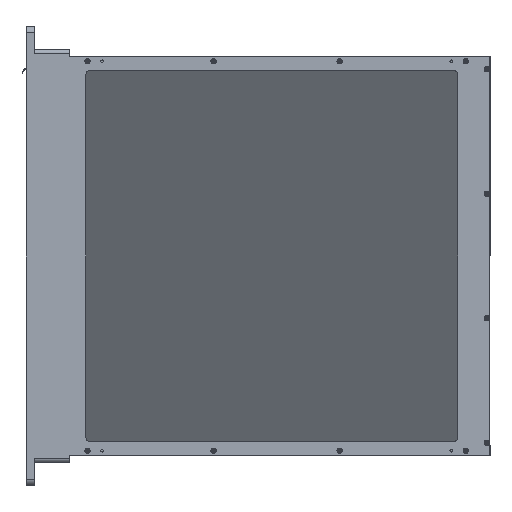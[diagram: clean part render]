
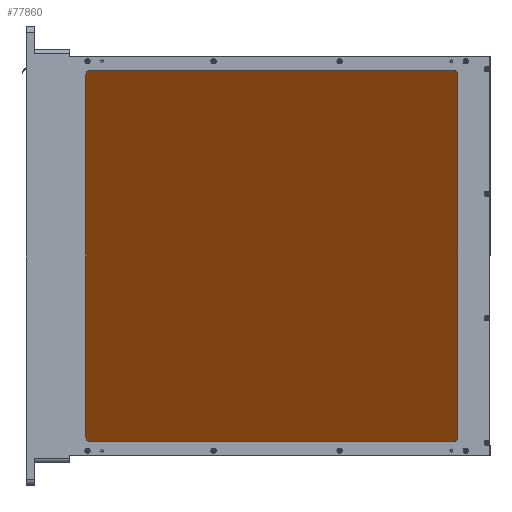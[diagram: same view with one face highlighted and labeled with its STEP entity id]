
A CAD part, left-side view. The second image highlights one B-rep face of the part: STEP entity #77860.
In plain terms, the highlighted planar face has unit normal (-0.707, 0.707, 0).
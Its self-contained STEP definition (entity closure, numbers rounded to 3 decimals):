
#630 = DIRECTION ( 'NONE',  ( 0., 0., 1. ) ) ;
#3436 = EDGE_CURVE ( 'NONE', #30602, #36677, #52478, .T. ) ;
#5288 = CIRCLE ( 'NONE', #68501, 2. ) ;
#5766 = VECTOR ( 'NONE', #630, 1000. ) ;
#6517 = CARTESIAN_POINT ( 'NONE',  ( 123.03, -21.642, 120.5 ) ) ;
#9128 = VECTOR ( 'NONE', #38949, 1000. ) ;
#10996 = DIRECTION ( 'NONE',  ( 0.707, 0.707, 0. ) ) ;
#12879 = CARTESIAN_POINT ( 'NONE',  ( -128.7, -273.372, -118.5 ) ) ;
#14117 = CARTESIAN_POINT ( 'NONE',  ( -130.114, -274.786, 120.5 ) ) ;
#15679 = CARTESIAN_POINT ( 'NONE',  ( -130.114, -274.786, -120.5 ) ) ;
#16178 = EDGE_CURVE ( 'NONE', #30602, #33350, #61137, .T. ) ;
#16868 = VERTEX_POINT ( 'NONE', #44717 ) ;
#18381 = CARTESIAN_POINT ( 'NONE',  ( 121.616, -23.056, 118.5 ) ) ;
#18667 = VERTEX_POINT ( 'NONE', #20954 ) ;
#19069 = DIRECTION ( 'NONE',  ( 0.707, 0.707, 0. ) ) ;
#19636 = EDGE_CURVE ( 'NONE', #18667, #60501, #38627, .T. ) ;
#20954 = CARTESIAN_POINT ( 'NONE',  ( 123.03, -21.642, -118.5 ) ) ;
#21177 = EDGE_CURVE ( 'NONE', #39599, #60501, #76122, .T. ) ;
#23249 = CARTESIAN_POINT ( 'NONE',  ( -130.114, -274.786, -118.5 ) ) ;
#23955 = EDGE_LOOP ( 'NONE', ( #42486, #63214, #32755, #58166, #57463, #78258, #44414, #56187 ) ) ;
#24474 = CARTESIAN_POINT ( 'NONE',  ( -128.7, -273.372, -120.5 ) ) ;
#24658 = DIRECTION ( 'NONE',  ( 0.707, 0.707, 0. ) ) ;
#26291 = VECTOR ( 'NONE', #53396, 1000. ) ;
#27122 = DIRECTION ( 'NONE',  ( -0.707, 0.707, 0. ) ) ;
#28556 = CARTESIAN_POINT ( 'NONE',  ( -130.114, -274.786, 120.5 ) ) ;
#29818 = EDGE_CURVE ( 'NONE', #16868, #52364, #5288, .T. ) ;
#30602 = VERTEX_POINT ( 'NONE', #24474 ) ;
#32755 = ORIENTED_EDGE ( 'NONE', *, *, #35002, .F. ) ;
#33350 = VERTEX_POINT ( 'NONE', #67765 ) ;
#33972 = FACE_OUTER_BOUND ( 'NONE', #23955, .T. ) ;
#34624 = CARTESIAN_POINT ( 'NONE',  ( 121.616, -23.056, 120.5 ) ) ;
#35002 = EDGE_CURVE ( 'NONE', #39599, #52364, #74850, .T. ) ;
#35086 = CARTESIAN_POINT ( 'NONE',  ( -128.7, -273.372, 118.5 ) ) ;
#35178 = AXIS2_PLACEMENT_3D ( 'NONE', #78756, #47714, #10996 ) ;
#36677 = VERTEX_POINT ( 'NONE', #23249 ) ;
#38598 = CARTESIAN_POINT ( 'NONE',  ( 123.03, -21.642, 118.5 ) ) ;
#38627 = LINE ( 'NONE', #6517, #5766 ) ;
#38949 = DIRECTION ( 'NONE',  ( -0.707, -0.707, 0. ) ) ;
#39599 = VERTEX_POINT ( 'NONE', #34624 ) ;
#39984 = AXIS2_PLACEMENT_3D ( 'NONE', #18381, #61628, #24658 ) ;
#40529 = DIRECTION ( 'NONE',  ( 0.707, 0.707, 0. ) ) ;
#41293 = DIRECTION ( 'NONE',  ( 0.707, 0.707, 0. ) ) ;
#42486 = ORIENTED_EDGE ( 'NONE', *, *, #51130, .F. ) ;
#42659 = LINE ( 'NONE', #28556, #26291 ) ;
#44414 = ORIENTED_EDGE ( 'NONE', *, *, #16178, .F. ) ;
#44717 = CARTESIAN_POINT ( 'NONE',  ( -130.114, -274.786, 118.5 ) ) ;
#44780 = CARTESIAN_POINT ( 'NONE',  ( -128.7, -273.372, 120.5 ) ) ;
#47714 = DIRECTION ( 'NONE',  ( 0.707, -0.707, 0. ) ) ;
#51130 = EDGE_CURVE ( 'NONE', #16868, #36677, #42659, .T. ) ;
#52364 = VERTEX_POINT ( 'NONE', #44780 ) ;
#52478 = CIRCLE ( 'NONE', #68738, 2. ) ;
#53396 = DIRECTION ( 'NONE',  ( 0., 0., -1. ) ) ;
#56099 = DIRECTION ( 'NONE',  ( -0.707, 0.707, 0. ) ) ;
#56187 = ORIENTED_EDGE ( 'NONE', *, *, #3436, .T. ) ;
#57463 = ORIENTED_EDGE ( 'NONE', *, *, #19636, .F. ) ;
#58166 = ORIENTED_EDGE ( 'NONE', *, *, #21177, .T. ) ;
#59214 = VECTOR ( 'NONE', #40529, 1000. ) ;
#60501 = VERTEX_POINT ( 'NONE', #38598 ) ;
#61076 = AXIS2_PLACEMENT_3D ( 'NONE', #64102, #27122, #70316 ) ;
#61137 = LINE ( 'NONE', #15679, #59214 ) ;
#61628 = DIRECTION ( 'NONE',  ( -0.707, 0.707, 0. ) ) ;
#63214 = ORIENTED_EDGE ( 'NONE', *, *, #29818, .T. ) ;
#64102 = CARTESIAN_POINT ( 'NONE',  ( 121.616, -23.056, -118.5 ) ) ;
#65671 = CIRCLE ( 'NONE', #61076, 2. ) ;
#67765 = CARTESIAN_POINT ( 'NONE',  ( 121.616, -23.056, -120.5 ) ) ;
#68501 = AXIS2_PLACEMENT_3D ( 'NONE', #35086, #78239, #41293 ) ;
#68738 = AXIS2_PLACEMENT_3D ( 'NONE', #12879, #56099, #19069 ) ;
#69696 = EDGE_CURVE ( 'NONE', #18667, #33350, #65671, .T. ) ;
#70316 = DIRECTION ( 'NONE',  ( 0.707, 0.707, 0. ) ) ;
#72551 = PLANE ( 'NONE',  #35178 ) ;
#74850 = LINE ( 'NONE', #14117, #9128 ) ;
#76122 = CIRCLE ( 'NONE', #39984, 2. ) ;
#77860 = ADVANCED_FACE ( 'NONE', ( #33972 ), #72551, .F. ) ;
#78239 = DIRECTION ( 'NONE',  ( -0.707, 0.707, 0. ) ) ;
#78258 = ORIENTED_EDGE ( 'NONE', *, *, #69696, .T. ) ;
#78756 = CARTESIAN_POINT ( 'NONE',  ( -3.542, -148.214, 0. ) ) ;
